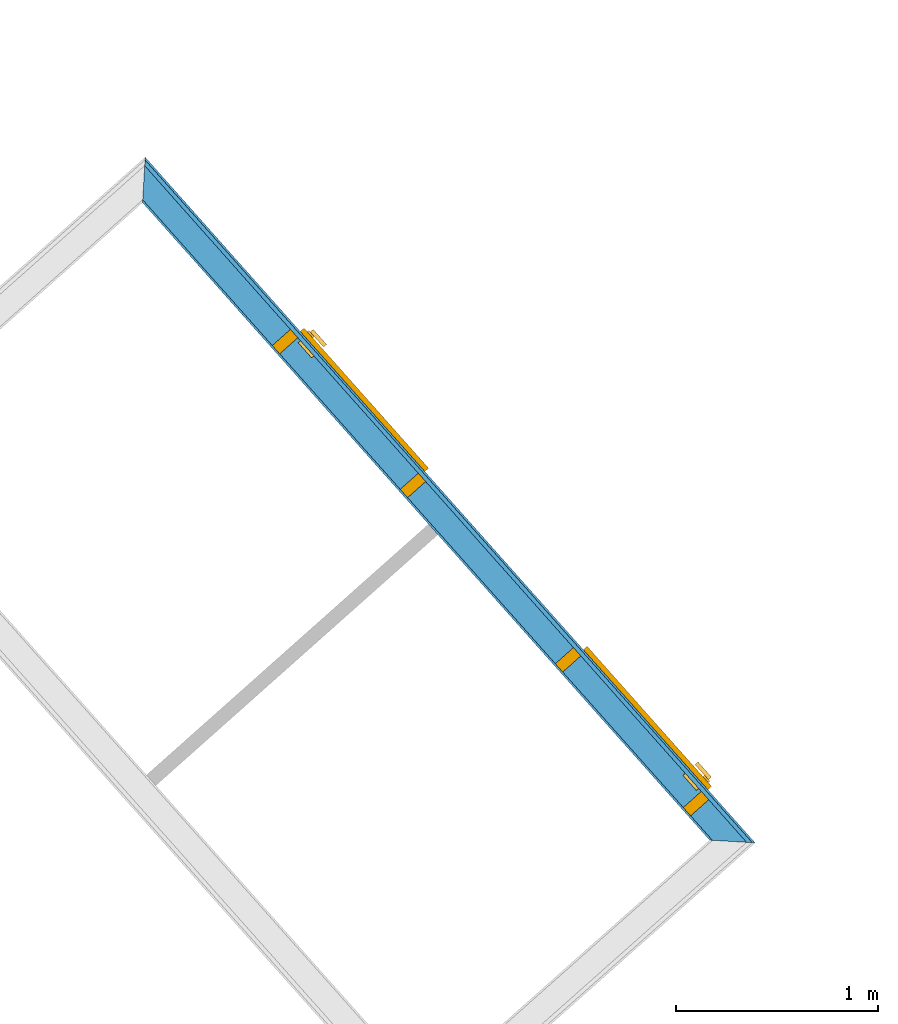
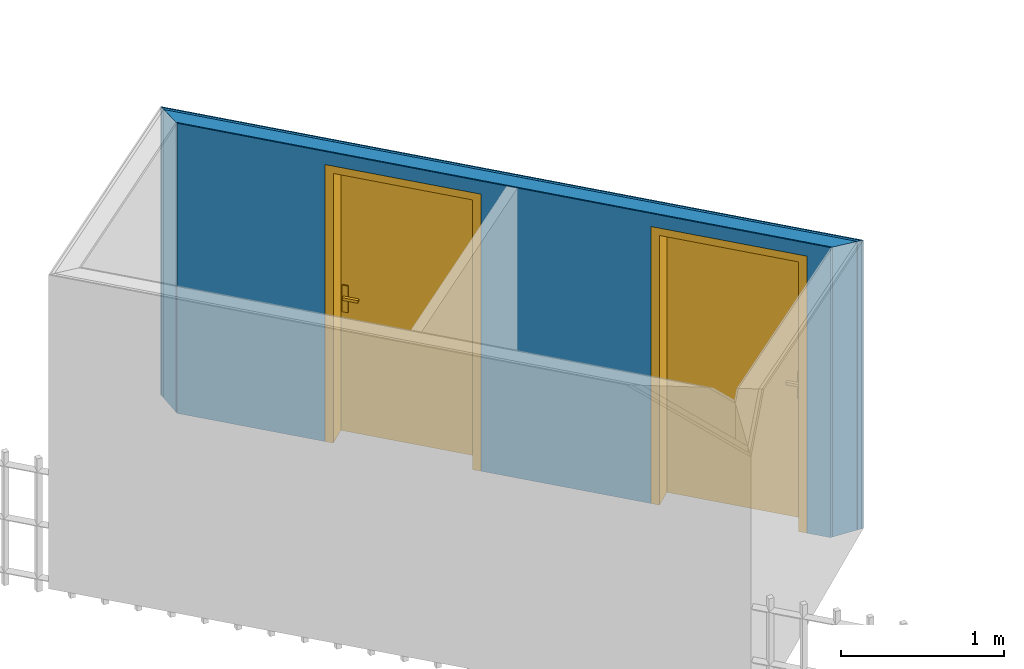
# One storey, part 111 of 195: 4 building element parts, 2 doors, 2 openings, 1 element without a shape of its own.
"""IFC2X3 building model written with IfcOpenShell, lengths in metres."""

from ifc_helpers import new_model, entity, si_unit, converted_unit, derived_unit, money_unit, direction, frame, origin_with_axes, origin_2d_with_axis, place, context, subcontext, project, spatial, polyline, rectangle, outline, extrude, boolean, faceted_brep, source, transform, mapped, material, type_object, element, fill, aggregate, save


model = new_model("IFC2X3")

# Units and contexts
model_context = context("Model", 3, precision=1e-05, world=origin_with_axes(), true_north=direction((0.0, 1.0)))
body_context = subcontext(model_context, "Body", "Model", "MODEL_VIEW")
ifc_project = project(units=[si_unit("LENGTHUNIT", "METRE"), si_unit("AREAUNIT", "SQUARE_METRE"), si_unit("VOLUMEUNIT", "CUBIC_METRE"), converted_unit("PLANEANGLEUNIT", "DEGREE", entity("IfcPlaneAngleMeasure", 0.0174532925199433), si_unit("PLANEANGLEUNIT", "RADIAN"), dimensions=[0, 0, 0, 0, 0, 0, 0]), money_unit("CHF"), converted_unit("TIMEUNIT", "Year", entity("IfcTimeMeasure", 31557600.0), si_unit("TIMEUNIT", "SECOND"), dimensions=[0, 0, 1, 0, 0, 0, 0]), si_unit("MASSUNIT", "GRAM", prefix="KILO"), si_unit("THERMODYNAMICTEMPERATUREUNIT", "DEGREE_CELSIUS"), si_unit("LUMINOUSINTENSITYUNIT", "LUMEN"), si_unit("ENERGYUNIT", "JOULE", prefix="MEGA"), derived_unit("THERMALCONDUCTANCEUNIT", [(si_unit("POWERUNIT", "WATT"), 1), (si_unit("LENGTHUNIT", "METRE"), -1), (si_unit("THERMODYNAMICTEMPERATUREUNIT", "KELVIN"), -1)]), derived_unit("SPECIFICHEATCAPACITYUNIT", [(si_unit("ENERGYUNIT", "JOULE"), 1), (si_unit("MASSUNIT", "GRAM", prefix="KILO"), -1), (si_unit("THERMODYNAMICTEMPERATUREUNIT", "KELVIN"), -1)]), derived_unit("MASSDENSITYUNIT", [(si_unit("MASSUNIT", "GRAM", prefix="KILO"), 1), (si_unit("VOLUMEUNIT", "CUBIC_METRE"), -1)])], contexts=[model_context])

# Site, building, storey
site_placement = place(None, origin_with_axes())
site = spatial("IfcSite", under=ifc_project, at=site_placement, Name="Site", CompositionType="ELEMENT")
building_placement = place(site_placement, origin_with_axes())
building = spatial("IfcBuilding", under=site, at=building_placement, Name="Bâtiment", CompositionType="ELEMENT")
storey_placement = place(building_placement, origin_with_axes())
storey = spatial("IfcBuildingStorey", under=building, at=storey_placement, Name="rdc", CompositionType="ELEMENT", Elevation=0.0)

# Door
door_style = type_object("IfcDoorStyle", Name="Porte_1v", ConstructionType="NOTDEFINED", OperationType="NOTDEFINED", ParameterTakesPrecedence=False, Sizeable=False)
shared_shape_1 = source(origin_with_axes(), body_context, "Body", "Brep", [
    faceted_brep([(0.505, 0.0, 0.0), (0.465, 0.0, 0.0), (0.465, 0.0, 2.04), (-0.465, 0.0, 2.04), (-0.465, 0.0, 0.0), (-0.505, 0.0, 0.0), (-0.505, 0.0, 2.08), (0.505, 0.0, 2.08), (0.505, -0.16, 0.0), (0.45, -0.16, 0.0), (0.45, -0.015, 0.0), (0.465, -0.015, 0.0), (0.465, -0.015, 2.04), (-0.465, -0.015, 2.04), (-0.465, -0.015, 0.0), (-0.45, -0.015, 0.0), (-0.45, -0.16, 0.0), (-0.505, -0.16, 0.0), (-0.505, -0.16, 2.08), (0.505, -0.16, 2.08), (-0.45, -0.16, 2.025), (0.45, -0.16, 2.025), (0.45, -0.015, 2.025), (-0.45, -0.015, 2.025)], [[[0, 1, 2, 3, 4, 5, 6, 7]], [[0, 8, 9, 10, 11, 1]], [[1, 11, 12, 2]], [[2, 12, 13, 3]], [[3, 13, 14, 4]], [[5, 4, 14, 15, 16, 17]], [[18, 6, 5, 17]], [[19, 7, 6, 18]], [[8, 0, 7, 19]], [[9, 8, 19, 18, 17, 16, 20, 21]], [[10, 9, 21, 22]], [[11, 10, 22, 23, 15, 14, 13, 12]], [[23, 20, 16, 15]], [[22, 21, 20, 23]]]),
    faceted_brep([(-0.4, -0.015, 0.9), (-0.44, -0.015, 0.9), (-0.44, -0.015, 1.1), (-0.4, -0.015, 1.1), (-0.4, -0.025, 0.9), (-0.44, -0.025, 0.9), (-0.44, -0.025, 1.1), (-0.4, -0.025, 1.1)], [[[0, 1, 2, 3]], [[1, 0, 4, 5]], [[2, 1, 5, 6]], [[3, 2, 6, 7]], [[0, 3, 7, 4]], [[5, 4, 7, 6]]]),
    faceted_brep([(-0.33, -0.025, 1.0), (-0.43, -0.025, 1.0), (-0.43, -0.025, 1.02), (-0.33, -0.025, 1.02), (-0.33, -0.045, 1.0), (-0.43, -0.045, 1.0), (-0.43, -0.045, 1.02), (-0.33, -0.045, 1.02)], [[[0, 1, 2, 3]], [[1, 0, 4, 5]], [[2, 1, 5, 6]], [[3, 2, 6, 7]], [[0, 3, 7, 4]], [[5, 4, 7, 6]]]),
    faceted_brep([(-0.4, 0.035, 0.9), (-0.44, 0.035, 0.9), (-0.44, 0.035, 1.1), (-0.4, 0.035, 1.1), (-0.4, 0.025, 0.9), (-0.44, 0.025, 0.9), (-0.44, 0.025, 1.1), (-0.4, 0.025, 1.1)], [[[0, 1, 2, 3]], [[1, 0, 4, 5]], [[2, 1, 5, 6]], [[3, 2, 6, 7]], [[0, 3, 7, 4]], [[5, 4, 7, 6]]]),
    faceted_brep([(-0.33, 0.05500000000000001, 1.0), (-0.43, 0.05500000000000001, 1.0), (-0.43, 0.05500000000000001, 1.02), (-0.33, 0.05500000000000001, 1.02), (-0.33, 0.035, 1.0), (-0.43, 0.035, 1.0), (-0.43, 0.035, 1.02), (-0.33, 0.035, 1.02)], [[[0, 1, 2, 3]], [[1, 0, 4, 5]], [[2, 1, 5, 6]], [[3, 2, 6, 7]], [[0, 3, 7, 4]], [[5, 4, 7, 6]]]),
    faceted_brep([(-0.465, 0.025, 0.0), (0.465, 0.025, 0.0), (0.465, -0.015, 0.0), (-0.465, -0.015, 0.0), (-0.465, 0.025, 2.04), (0.465, 0.025, 2.04), (0.465, -0.015, 2.04), (-0.465, -0.015, 2.04)], [[[0, 1, 2, 3]], [[0, 4, 5, 1]], [[1, 5, 6, 2]], [[3, 2, 6, 7]], [[4, 0, 3, 7]], [[5, 4, 7, 6]]]),
])
wall_placement = place(storey_placement, frame((9536.03268149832, -1057.346114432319, 57.7), z_axis=(0.0, 0.0, 1.0), x_axis=(0.6646478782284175, -0.7471567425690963, 0.0)))
opening_1_placement = place(wall_placement, frame((1.622741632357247, 0.0, 0.0), z_axis=(0.0, 0.0, 1.0), x_axis=(1.0, 0.0, 0.0)))
door_1_placement = place(opening_1_placement, frame((-0.4649999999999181, 0.0, 0.0), z_axis=(0.0, 0.0, 1.0), x_axis=(1.0, 0.0, 0.0)))
door_1 = element("IfcDoor", 1, at=door_1_placement, inside=storey, type_object=door_style, Name="Por-300", OverallHeight=2.04, OverallWidth=0.93, context=body_context, shape_type="MappedRepresentation", body=[
    mapped(shared_shape_1, transform((0.4650000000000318, 0.0, 0.0))),
])

shared_shape_2 = source(origin_with_axes(), body_context, "Body", "Brep", [
    faceted_brep([(-0.505, 0.0, 0.0), (-0.505, 0.0, 2.08), (0.505, 0.0, 2.08), (0.505, 0.0, 0.0), (0.465, 0.0, 0.0), (0.465, 0.0, 2.04), (-0.465, 0.0, 2.04), (-0.465, 0.0, 0.0), (-0.505, -0.16, 0.0), (-0.505, -0.16, 2.08), (0.505, -0.16, 2.08), (0.505, -0.16, 0.0), (0.45, -0.16, 0.0), (0.45, -0.015, 0.0), (0.465, -0.015, 0.0), (0.465, -0.015, 2.04), (-0.465, -0.015, 2.04), (-0.465, -0.015, 0.0), (-0.45, -0.015, 0.0), (-0.45, -0.16, 0.0), (-0.45, -0.16, 2.025), (0.45, -0.16, 2.025), (0.45, -0.015, 2.025), (-0.45, -0.015, 2.025)], [[[0, 1, 2, 3, 4, 5, 6, 7]], [[8, 9, 1, 0]], [[9, 10, 2, 1]], [[10, 11, 3, 2]], [[3, 11, 12, 13, 14, 4]], [[5, 4, 14, 15]], [[6, 5, 15, 16]], [[7, 6, 16, 17]], [[0, 7, 17, 18, 19, 8]], [[19, 20, 21, 12, 11, 10, 9, 8]], [[22, 13, 12, 21]], [[17, 16, 15, 14, 13, 22, 23, 18]], [[18, 23, 20, 19]], [[23, 22, 21, 20]]]),
    faceted_brep([(0.4, -0.015, 0.9), (0.4, -0.015, 1.1), (0.44, -0.015, 1.1), (0.44, -0.015, 0.9), (0.4, -0.025, 0.9), (0.4, -0.025, 1.1), (0.44, -0.025, 1.1), (0.44, -0.025, 0.9)], [[[0, 1, 2, 3]], [[0, 4, 5, 1]], [[1, 5, 6, 2]], [[2, 6, 7, 3]], [[3, 7, 4, 0]], [[7, 6, 5, 4]]]),
    faceted_brep([(0.33, -0.025, 1.0), (0.33, -0.025, 1.02), (0.43, -0.025, 1.02), (0.43, -0.025, 1.0), (0.33, -0.045, 1.0), (0.33, -0.045, 1.02), (0.43, -0.045, 1.02), (0.43, -0.045, 1.0)], [[[0, 1, 2, 3]], [[0, 4, 5, 1]], [[1, 5, 6, 2]], [[2, 6, 7, 3]], [[3, 7, 4, 0]], [[7, 6, 5, 4]]]),
    faceted_brep([(0.4, 0.035, 0.9), (0.4, 0.035, 1.1), (0.44, 0.035, 1.1), (0.44, 0.035, 0.9), (0.4, 0.025, 0.9), (0.4, 0.025, 1.1), (0.44, 0.025, 1.1), (0.44, 0.025, 0.9)], [[[0, 1, 2, 3]], [[0, 4, 5, 1]], [[1, 5, 6, 2]], [[2, 6, 7, 3]], [[3, 7, 4, 0]], [[7, 6, 5, 4]]]),
    faceted_brep([(0.33, 0.05500000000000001, 1.0), (0.33, 0.05500000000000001, 1.02), (0.43, 0.05500000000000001, 1.02), (0.43, 0.05500000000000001, 1.0), (0.33, 0.035, 1.0), (0.33, 0.035, 1.02), (0.43, 0.035, 1.02), (0.43, 0.035, 1.0)], [[[0, 1, 2, 3]], [[0, 4, 5, 1]], [[1, 5, 6, 2]], [[2, 6, 7, 3]], [[3, 7, 4, 0]], [[7, 6, 5, 4]]]),
    faceted_brep([(0.465, 0.025, 0.0), (0.465, -0.015, 0.0), (-0.465, -0.015, 0.0), (-0.465, 0.025, 0.0), (0.465, 0.025, 2.04), (0.465, -0.015, 2.04), (-0.465, -0.015, 2.04), (-0.465, 0.025, 2.04)], [[[0, 1, 2, 3]], [[4, 5, 1, 0]], [[1, 5, 6, 2]], [[3, 2, 6, 7]], [[0, 3, 7, 4]], [[7, 6, 5, 4]]]),
])
opening_2_placement = place(wall_placement, frame((3.735890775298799, 0.0, 0.0), z_axis=(0.0, 0.0, 1.0), x_axis=(1.0, 0.0, 0.0)))
door_2_placement = place(opening_2_placement, frame((-0.4650000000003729, 0.0, 0.0), z_axis=(0.0, 0.0, 1.0), x_axis=(1.0, 0.0, 0.0)))
door_2 = element("IfcDoor", 2, at=door_2_placement, inside=storey, type_object=door_style, Name="Por-300", OverallHeight=2.04, OverallWidth=0.93, context=body_context, shape_type="MappedRepresentation", body=[
    mapped(shared_shape_2, transform((0.4650000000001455, 0.0, 0.0))),
])

# Wall, opening
wall_type = type_object("IfcWallType", Name="1/Ossatur bois 160   non isol 160", PredefinedType="NOTDEFINED")
wall = element("IfcWall", 3, at=wall_placement, inside=storey, type_object=wall_type, Name="Mur-110")
opening_1 = element("IfcOpeningElement", 4, at=opening_1_placement, cuts=wall, Name="Por-300", context=body_context, shape_type="SweptSolid", body=[
    extrude(rectangle(XDim=1.01000001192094, YDim=2.079999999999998, at=origin_2d_with_axis()), frame((5.960259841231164e-09, -0.1599999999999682, 1.039999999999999), z_axis=(0.0, 1.0, 0.0), x_axis=(1.0, 0.0, 0.0)), (0.0, 0.0, 1.0), 0.32),
])

fill(opening_1, door_1)

# Opening
opening_2 = element("IfcOpeningElement", 5, at=opening_2_placement, cuts=wall, Name="Por-300", context=body_context, shape_type="SweptSolid", body=[
    extrude(rectangle(XDim=1.01000001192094, YDim=2.079999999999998, at=origin_2d_with_axis()), frame((-5.960487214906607e-09, -0.1599999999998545, 1.039999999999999), z_axis=(0.0, -1.0, 0.0), x_axis=(-1.0, 0.0, 0.0)), (0.0, 0.0, -1.0), 0.32),
])

fill(opening_2, door_2)

# Building element part
ifc_material_1 = material(Name="Lame d'air 323202302")
building_element_part_1_placement = place(wall_placement, origin_with_axes())
building_element_part_1 = element("IfcBuildingElementPart", 6, at=building_element_part_1_placement, material=ifc_material_1, Name="Lame d'air 323202302", context=body_context, shape_type="CSG", body=[
    boolean("DIFFERENCE", boolean("DIFFERENCE", boolean("DIFFERENCE", boolean("DIFFERENCE", extrude(outline(polyline([(0.0, -0.02999999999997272), (4.554068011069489, -0.02999999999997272), (4.554068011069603, -0.01000000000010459), (0.0, -0.01000000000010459), (0.0, -0.02999999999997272)])), origin_with_axes(), (0.0, 0.0, 1.0), 2.75), faceted_brep([(0.1499999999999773, -0.1500000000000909, 2.177693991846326), (0.1499999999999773, -0.1500000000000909, 0.0), (0.0, -0.1499999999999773, 0.0), (0.0, -0.1499999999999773, 2.75), (4.554068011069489, -0.1500000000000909, 2.75), (4.554068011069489, -0.1500000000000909, 0.0), (4.403933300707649, -0.1500000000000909, 0.0), (4.403933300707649, -0.1500000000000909, 2.177359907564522), (0.1599999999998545, -0.1600000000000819, 2.178568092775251), (0.1599999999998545, -0.1600000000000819, 0.0), (0.0, -0.1600000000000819, 0.0), (0.0, -0.1600000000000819, 2.75), (4.554068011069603, -0.1600000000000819, 2.75), (4.554068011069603, -0.1600000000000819, 0.0), (4.393924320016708, -0.1600000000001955, 0.0), (4.393924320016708, -0.1600000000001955, 2.178235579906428)], [[[0, 1, 2, 3, 4, 5, 6, 7]], [[1, 0, 8, 9]], [[1, 9, 10, 2]], [[3, 2, 10, 11]], [[3, 11, 12, 4]], [[12, 13, 5, 4]], [[14, 6, 5, 13]], [[7, 6, 14, 15]], [[0, 7, 15, 8]], [[15, 14, 13, 12, 11, 10, 9, 8]]])), faceted_brep([(0.02999999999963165, -0.02999999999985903, 2.16720478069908), (0.0300000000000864, -0.02999999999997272, 0.0), (0.0, -0.02999999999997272, 0.0), (0.0, -0.02999999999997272, 2.75), (4.554068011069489, -0.02999999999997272, 2.75), (4.554068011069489, -0.02999999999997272, 0.0), (4.524041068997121, -0.02999999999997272, 0.0), (4.524041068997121, -0.02999999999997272, 2.166851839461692), (0.1499999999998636, -0.1499999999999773, 2.177693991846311), (0.1499999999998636, -0.1499999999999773, 0.0), (0.0, -0.1499999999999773, 0.0), (0.0, -0.1499999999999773, 2.75), (4.554068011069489, -0.1500000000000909, 2.75), (4.554068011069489, -0.1500000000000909, 0.0), (4.403933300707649, -0.1500000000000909, 0.0), (4.403933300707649, -0.1500000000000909, 2.177359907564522)], [[[0, 1, 2, 3, 4, 5, 6, 7]], [[1, 0, 8, 9]], [[1, 9, 10, 2]], [[3, 2, 10, 11]], [[3, 11, 12, 4]], [[12, 13, 5, 4]], [[14, 6, 5, 13]], [[7, 6, 14, 15]], [[0, 7, 15, 8]], [[15, 14, 13, 12, 11, 10, 9, 8]]])), faceted_brep([(0.009999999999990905, -0.01000000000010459, 2.16545657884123), (0.01000000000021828, -0.009999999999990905, 0.0), (0.0, -0.01000000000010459, 0.0), (0.0, -0.01000000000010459, 2.75), (4.554068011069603, -0.01000000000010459, 2.75), (4.554068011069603, -0.01000000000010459, 0.0), (4.544059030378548, -0.01000000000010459, 0.0), (4.544059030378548, -0.01000000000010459, 2.165100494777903), (0.02999999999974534, -0.0300000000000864, 2.167204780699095), (0.0300000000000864, -0.02999999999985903, 0.0), (0.0, -0.02999999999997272, 0.0), (0.0, -0.02999999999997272, 2.75), (4.554068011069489, -0.02999999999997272, 2.75), (4.554068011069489, -0.02999999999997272, 0.0), (4.524041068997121, -0.02999999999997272, 0.0), (4.524041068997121, -0.02999999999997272, 2.166851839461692)], [[[0, 1, 2, 3, 4, 5, 6, 7]], [[1, 0, 8, 9]], [[1, 9, 10, 2]], [[3, 2, 10, 11]], [[3, 11, 12, 4]], [[12, 13, 5, 4]], [[14, 6, 5, 13]], [[7, 6, 14, 15]], [[0, 7, 15, 8]], [[15, 14, 13, 12, 11, 10, 9, 8]]])), faceted_brep([(4.554068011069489, 0.0, 0.0), (4.554068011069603, 0.0, 2.164224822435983), (4.554068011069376, 0.0, 2.75), (4.554068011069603, -0.01000000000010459, 2.75), (4.554068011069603, -0.01000000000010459, 0.0), (4.544059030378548, -0.01000000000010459, 0.0), (4.544059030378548, -0.01000000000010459, 2.165100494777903), (0.0, 0.0, 2.164582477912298), (0.0, 0.0, 2.75), (0.0, -0.01000000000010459, 2.75), (0.0, -0.01000000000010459, 0.0), (0.01000000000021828, -0.009999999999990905, 0.0), (0.009999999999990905, -0.01000000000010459, 2.16545657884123), (0.0, 0.0, 0.0)], [[[0, 1, 2, 3, 4]], [[1, 0, 5, 6]], [[1, 7, 8, 2]], [[8, 9, 3, 2]], [[6, 5, 4, 3, 9, 10, 11, 12]], [[5, 0, 4]], [[7, 1, 6, 12]], [[7, 13, 10, 9, 8]], [[13, 11, 10]], [[13, 7, 12, 11]]])),
])

ifc_material_2 = material(Name="Sans Trame 296962763")
building_element_part_2_placement = place(wall_placement, origin_with_axes())
building_element_part_2 = element("IfcBuildingElementPart", 7, at=building_element_part_2_placement, material=ifc_material_2, Name="Sans Trame 296962763", context=body_context, shape_type="CSG", body=[
    boolean("DIFFERENCE", boolean("DIFFERENCE", boolean("DIFFERENCE", boolean("DIFFERENCE", extrude(outline(polyline([(0.0, -0.1600000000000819), (4.554068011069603, -0.1600000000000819), (4.554068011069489, -0.1500000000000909), (0.0, -0.1499999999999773), (0.0, -0.1600000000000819)])), origin_with_axes(), (0.0, 0.0, 1.0), 2.75), faceted_brep([(0.1499999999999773, -0.1500000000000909, 2.177693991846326), (0.1499999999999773, -0.1500000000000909, 0.0), (0.0, -0.1499999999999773, 0.0), (0.0, -0.1499999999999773, 2.75), (4.554068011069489, -0.1500000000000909, 2.75), (4.554068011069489, -0.1500000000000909, 0.0), (4.403933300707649, -0.1500000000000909, 0.0), (4.403933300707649, -0.1500000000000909, 2.177359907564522), (0.1599999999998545, -0.1600000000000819, 2.178568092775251), (0.1599999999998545, -0.1600000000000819, 0.0), (0.0, -0.1600000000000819, 0.0), (0.0, -0.1600000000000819, 2.75), (4.554068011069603, -0.1600000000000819, 2.75), (4.554068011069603, -0.1600000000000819, 0.0), (4.393924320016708, -0.1600000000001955, 0.0), (4.393924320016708, -0.1600000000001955, 2.178235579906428)], [[[0, 1, 2, 3, 4, 5, 6, 7]], [[1, 0, 8, 9]], [[1, 9, 10, 2]], [[3, 2, 10, 11]], [[3, 11, 12, 4]], [[12, 13, 5, 4]], [[14, 6, 5, 13]], [[7, 6, 14, 15]], [[0, 7, 15, 8]], [[15, 14, 13, 12, 11, 10, 9, 8]]])), faceted_brep([(0.02999999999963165, -0.02999999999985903, 2.16720478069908), (0.0300000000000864, -0.02999999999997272, 0.0), (0.0, -0.02999999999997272, 0.0), (0.0, -0.02999999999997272, 2.75), (4.554068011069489, -0.02999999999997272, 2.75), (4.554068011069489, -0.02999999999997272, 0.0), (4.524041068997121, -0.02999999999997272, 0.0), (4.524041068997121, -0.02999999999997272, 2.166851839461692), (0.1499999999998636, -0.1499999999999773, 2.177693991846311), (0.1499999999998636, -0.1499999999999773, 0.0), (0.0, -0.1499999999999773, 0.0), (0.0, -0.1499999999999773, 2.75), (4.554068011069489, -0.1500000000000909, 2.75), (4.554068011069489, -0.1500000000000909, 0.0), (4.403933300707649, -0.1500000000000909, 0.0), (4.403933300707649, -0.1500000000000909, 2.177359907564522)], [[[0, 1, 2, 3, 4, 5, 6, 7]], [[1, 0, 8, 9]], [[1, 9, 10, 2]], [[3, 2, 10, 11]], [[3, 11, 12, 4]], [[12, 13, 5, 4]], [[14, 6, 5, 13]], [[7, 6, 14, 15]], [[0, 7, 15, 8]], [[15, 14, 13, 12, 11, 10, 9, 8]]])), faceted_brep([(0.009999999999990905, -0.01000000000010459, 2.16545657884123), (0.01000000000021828, -0.009999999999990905, 0.0), (0.0, -0.01000000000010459, 0.0), (0.0, -0.01000000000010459, 2.75), (4.554068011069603, -0.01000000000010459, 2.75), (4.554068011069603, -0.01000000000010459, 0.0), (4.544059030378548, -0.01000000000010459, 0.0), (4.544059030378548, -0.01000000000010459, 2.165100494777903), (0.02999999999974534, -0.0300000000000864, 2.167204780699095), (0.0300000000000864, -0.02999999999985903, 0.0), (0.0, -0.02999999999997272, 0.0), (0.0, -0.02999999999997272, 2.75), (4.554068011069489, -0.02999999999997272, 2.75), (4.554068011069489, -0.02999999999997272, 0.0), (4.524041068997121, -0.02999999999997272, 0.0), (4.524041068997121, -0.02999999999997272, 2.166851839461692)], [[[0, 1, 2, 3, 4, 5, 6, 7]], [[1, 0, 8, 9]], [[1, 9, 10, 2]], [[3, 2, 10, 11]], [[3, 11, 12, 4]], [[12, 13, 5, 4]], [[14, 6, 5, 13]], [[7, 6, 14, 15]], [[0, 7, 15, 8]], [[15, 14, 13, 12, 11, 10, 9, 8]]])), faceted_brep([(4.554068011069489, 0.0, 0.0), (4.554068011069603, 0.0, 2.164224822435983), (4.554068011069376, 0.0, 2.75), (4.554068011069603, -0.01000000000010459, 2.75), (4.554068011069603, -0.01000000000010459, 0.0), (4.544059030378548, -0.01000000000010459, 0.0), (4.544059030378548, -0.01000000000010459, 2.165100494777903), (0.0, 0.0, 2.164582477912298), (0.0, 0.0, 2.75), (0.0, -0.01000000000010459, 2.75), (0.0, -0.01000000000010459, 0.0), (0.01000000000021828, -0.009999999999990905, 0.0), (0.009999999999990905, -0.01000000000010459, 2.16545657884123), (0.0, 0.0, 0.0)], [[[0, 1, 2, 3, 4]], [[1, 0, 5, 6]], [[1, 7, 8, 2]], [[8, 9, 3, 2]], [[6, 5, 4, 3, 9, 10, 11, 12]], [[5, 0, 4]], [[7, 1, 6, 12]], [[7, 13, 10, 9, 8]], [[13, 11, 10]], [[13, 7, 12, 11]]])),
])

ifc_material_3 = material(Name="Hachure solide 323202122")
building_element_part_3_placement = place(wall_placement, origin_with_axes())
building_element_part_3 = element("IfcBuildingElementPart", 8, at=building_element_part_3_placement, material=ifc_material_3, Name="Hachure solide 323202122", context=body_context, shape_type="CSG", body=[
    boolean("DIFFERENCE", boolean("DIFFERENCE", boolean("DIFFERENCE", boolean("DIFFERENCE", extrude(outline(polyline([(0.0, -0.01000000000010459), (4.554068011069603, -0.01000000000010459), (4.554068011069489, 0.0), (0.0, 0.0), (0.0, -0.01000000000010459)])), origin_with_axes(), (0.0, 0.0, 1.0), 2.75), faceted_brep([(0.1499999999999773, -0.1500000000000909, 2.177693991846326), (0.1499999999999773, -0.1500000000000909, 0.0), (0.0, -0.1499999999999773, 0.0), (0.0, -0.1499999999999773, 2.75), (4.554068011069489, -0.1500000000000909, 2.75), (4.554068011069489, -0.1500000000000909, 0.0), (4.403933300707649, -0.1500000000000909, 0.0), (4.403933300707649, -0.1500000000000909, 2.177359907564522), (0.1599999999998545, -0.1600000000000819, 2.178568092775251), (0.1599999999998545, -0.1600000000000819, 0.0), (0.0, -0.1600000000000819, 0.0), (0.0, -0.1600000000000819, 2.75), (4.554068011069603, -0.1600000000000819, 2.75), (4.554068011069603, -0.1600000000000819, 0.0), (4.393924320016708, -0.1600000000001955, 0.0), (4.393924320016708, -0.1600000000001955, 2.178235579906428)], [[[0, 1, 2, 3, 4, 5, 6, 7]], [[1, 0, 8, 9]], [[1, 9, 10, 2]], [[3, 2, 10, 11]], [[3, 11, 12, 4]], [[12, 13, 5, 4]], [[14, 6, 5, 13]], [[7, 6, 14, 15]], [[0, 7, 15, 8]], [[15, 14, 13, 12, 11, 10, 9, 8]]])), faceted_brep([(0.02999999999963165, -0.02999999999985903, 2.16720478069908), (0.0300000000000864, -0.02999999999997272, 0.0), (0.0, -0.02999999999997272, 0.0), (0.0, -0.02999999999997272, 2.75), (4.554068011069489, -0.02999999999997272, 2.75), (4.554068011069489, -0.02999999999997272, 0.0), (4.524041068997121, -0.02999999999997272, 0.0), (4.524041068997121, -0.02999999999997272, 2.166851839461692), (0.1499999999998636, -0.1499999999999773, 2.177693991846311), (0.1499999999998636, -0.1499999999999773, 0.0), (0.0, -0.1499999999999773, 0.0), (0.0, -0.1499999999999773, 2.75), (4.554068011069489, -0.1500000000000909, 2.75), (4.554068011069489, -0.1500000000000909, 0.0), (4.403933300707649, -0.1500000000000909, 0.0), (4.403933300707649, -0.1500000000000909, 2.177359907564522)], [[[0, 1, 2, 3, 4, 5, 6, 7]], [[1, 0, 8, 9]], [[1, 9, 10, 2]], [[3, 2, 10, 11]], [[3, 11, 12, 4]], [[12, 13, 5, 4]], [[14, 6, 5, 13]], [[7, 6, 14, 15]], [[0, 7, 15, 8]], [[15, 14, 13, 12, 11, 10, 9, 8]]])), faceted_brep([(0.009999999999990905, -0.01000000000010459, 2.16545657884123), (0.01000000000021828, -0.009999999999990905, 0.0), (0.0, -0.01000000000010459, 0.0), (0.0, -0.01000000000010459, 2.75), (4.554068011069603, -0.01000000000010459, 2.75), (4.554068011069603, -0.01000000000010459, 0.0), (4.544059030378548, -0.01000000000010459, 0.0), (4.544059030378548, -0.01000000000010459, 2.165100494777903), (0.02999999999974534, -0.0300000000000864, 2.167204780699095), (0.0300000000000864, -0.02999999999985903, 0.0), (0.0, -0.02999999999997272, 0.0), (0.0, -0.02999999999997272, 2.75), (4.554068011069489, -0.02999999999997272, 2.75), (4.554068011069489, -0.02999999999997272, 0.0), (4.524041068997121, -0.02999999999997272, 0.0), (4.524041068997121, -0.02999999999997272, 2.166851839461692)], [[[0, 1, 2, 3, 4, 5, 6, 7]], [[1, 0, 8, 9]], [[1, 9, 10, 2]], [[3, 2, 10, 11]], [[3, 11, 12, 4]], [[12, 13, 5, 4]], [[14, 6, 5, 13]], [[7, 6, 14, 15]], [[0, 7, 15, 8]], [[15, 14, 13, 12, 11, 10, 9, 8]]])), faceted_brep([(4.554068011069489, 0.0, 0.0), (4.554068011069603, 0.0, 2.164224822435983), (4.554068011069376, 0.0, 2.75), (4.554068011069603, -0.01000000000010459, 2.75), (4.554068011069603, -0.01000000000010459, 0.0), (4.544059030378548, -0.01000000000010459, 0.0), (4.544059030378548, -0.01000000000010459, 2.165100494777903), (0.0, 0.0, 2.164582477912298), (0.0, 0.0, 2.75), (0.0, -0.01000000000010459, 2.75), (0.0, -0.01000000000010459, 0.0), (0.01000000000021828, -0.009999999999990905, 0.0), (0.009999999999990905, -0.01000000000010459, 2.16545657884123), (0.0, 0.0, 0.0)], [[[0, 1, 2, 3, 4]], [[1, 0, 5, 6]], [[1, 7, 8, 2]], [[8, 9, 3, 2]], [[6, 5, 4, 3, 9, 10, 11, 12]], [[5, 0, 4]], [[7, 1, 6, 12]], [[7, 13, 10, 9, 8]], [[13, 11, 10]], [[13, 7, 12, 11]]])),
])

ifc_material_4 = material(Name="Lame d'air 275581439")
building_element_part_4_placement = place(wall_placement, origin_with_axes())
building_element_part_4 = element("IfcBuildingElementPart", 9, at=building_element_part_4_placement, material=ifc_material_4, Name="Lame d'air 275581439", context=body_context, shape_type="CSG", body=[
    boolean("DIFFERENCE", boolean("DIFFERENCE", boolean("DIFFERENCE", boolean("DIFFERENCE", extrude(outline(polyline([(0.0, -0.1499999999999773), (4.554068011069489, -0.1500000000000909), (4.554068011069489, -0.02999999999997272), (0.0, -0.02999999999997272), (0.0, -0.1499999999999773)])), origin_with_axes(), (0.0, 0.0, 1.0), 2.75), faceted_brep([(0.1499999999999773, -0.1500000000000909, 2.177693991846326), (0.1499999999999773, -0.1500000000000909, 0.0), (0.0, -0.1499999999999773, 0.0), (0.0, -0.1499999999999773, 2.75), (4.554068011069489, -0.1500000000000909, 2.75), (4.554068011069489, -0.1500000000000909, 0.0), (4.403933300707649, -0.1500000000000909, 0.0), (4.403933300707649, -0.1500000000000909, 2.177359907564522), (0.1599999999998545, -0.1600000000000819, 2.178568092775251), (0.1599999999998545, -0.1600000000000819, 0.0), (0.0, -0.1600000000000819, 0.0), (0.0, -0.1600000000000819, 2.75), (4.554068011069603, -0.1600000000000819, 2.75), (4.554068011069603, -0.1600000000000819, 0.0), (4.393924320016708, -0.1600000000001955, 0.0), (4.393924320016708, -0.1600000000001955, 2.178235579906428)], [[[0, 1, 2, 3, 4, 5, 6, 7]], [[1, 0, 8, 9]], [[1, 9, 10, 2]], [[3, 2, 10, 11]], [[3, 11, 12, 4]], [[12, 13, 5, 4]], [[14, 6, 5, 13]], [[7, 6, 14, 15]], [[0, 7, 15, 8]], [[15, 14, 13, 12, 11, 10, 9, 8]]])), faceted_brep([(0.02999999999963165, -0.02999999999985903, 2.16720478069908), (0.0300000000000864, -0.02999999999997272, 0.0), (0.0, -0.02999999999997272, 0.0), (0.0, -0.02999999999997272, 2.75), (4.554068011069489, -0.02999999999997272, 2.75), (4.554068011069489, -0.02999999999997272, 0.0), (4.524041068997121, -0.02999999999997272, 0.0), (4.524041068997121, -0.02999999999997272, 2.166851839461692), (0.1499999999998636, -0.1499999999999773, 2.177693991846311), (0.1499999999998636, -0.1499999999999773, 0.0), (0.0, -0.1499999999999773, 0.0), (0.0, -0.1499999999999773, 2.75), (4.554068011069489, -0.1500000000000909, 2.75), (4.554068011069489, -0.1500000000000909, 0.0), (4.403933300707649, -0.1500000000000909, 0.0), (4.403933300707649, -0.1500000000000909, 2.177359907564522)], [[[0, 1, 2, 3, 4, 5, 6, 7]], [[1, 0, 8, 9]], [[1, 9, 10, 2]], [[3, 2, 10, 11]], [[3, 11, 12, 4]], [[12, 13, 5, 4]], [[14, 6, 5, 13]], [[7, 6, 14, 15]], [[0, 7, 15, 8]], [[15, 14, 13, 12, 11, 10, 9, 8]]])), faceted_brep([(0.009999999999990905, -0.01000000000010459, 2.16545657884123), (0.01000000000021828, -0.009999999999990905, 0.0), (0.0, -0.01000000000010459, 0.0), (0.0, -0.01000000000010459, 2.75), (4.554068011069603, -0.01000000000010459, 2.75), (4.554068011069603, -0.01000000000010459, 0.0), (4.544059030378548, -0.01000000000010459, 0.0), (4.544059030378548, -0.01000000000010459, 2.165100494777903), (0.02999999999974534, -0.0300000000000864, 2.167204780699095), (0.0300000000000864, -0.02999999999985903, 0.0), (0.0, -0.02999999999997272, 0.0), (0.0, -0.02999999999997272, 2.75), (4.554068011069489, -0.02999999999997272, 2.75), (4.554068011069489, -0.02999999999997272, 0.0), (4.524041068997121, -0.02999999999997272, 0.0), (4.524041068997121, -0.02999999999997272, 2.166851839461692)], [[[0, 1, 2, 3, 4, 5, 6, 7]], [[1, 0, 8, 9]], [[1, 9, 10, 2]], [[3, 2, 10, 11]], [[3, 11, 12, 4]], [[12, 13, 5, 4]], [[14, 6, 5, 13]], [[7, 6, 14, 15]], [[0, 7, 15, 8]], [[15, 14, 13, 12, 11, 10, 9, 8]]])), faceted_brep([(4.554068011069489, 0.0, 0.0), (4.554068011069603, 0.0, 2.164224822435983), (4.554068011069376, 0.0, 2.75), (4.554068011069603, -0.01000000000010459, 2.75), (4.554068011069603, -0.01000000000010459, 0.0), (4.544059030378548, -0.01000000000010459, 0.0), (4.544059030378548, -0.01000000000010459, 2.165100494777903), (0.0, 0.0, 2.164582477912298), (0.0, 0.0, 2.75), (0.0, -0.01000000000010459, 2.75), (0.0, -0.01000000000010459, 0.0), (0.01000000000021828, -0.009999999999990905, 0.0), (0.009999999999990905, -0.01000000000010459, 2.16545657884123), (0.0, 0.0, 0.0)], [[[0, 1, 2, 3, 4]], [[1, 0, 5, 6]], [[1, 7, 8, 2]], [[8, 9, 3, 2]], [[6, 5, 4, 3, 9, 10, 11, 12]], [[5, 0, 4]], [[7, 1, 6, 12]], [[7, 13, 10, 9, 8]], [[13, 11, 10]], [[13, 7, 12, 11]]])),
])

aggregate(wall, [building_element_part_1, building_element_part_2, building_element_part_3, building_element_part_4])

save(model, "model.ifc")
